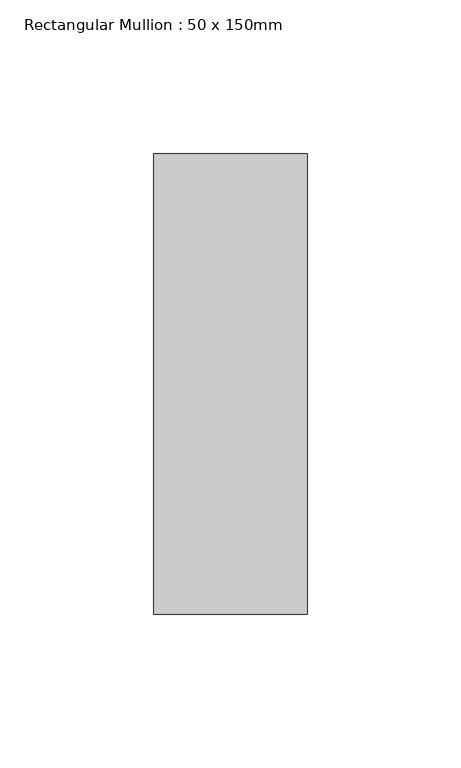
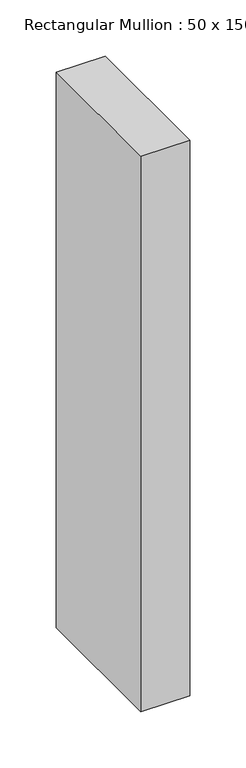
"""IFC4 building model written with IfcOpenShell, lengths in millimetres: member geometry, Rectangular Mullion : 50 x 150mm."""

from ifc_helpers import new_model, si_unit, frame, origin, place, context, project, spatial, polyline, outline, extrude, source, transform, mapped, element, save


def rectangular_mullion_50_x_150mm_fae7d408(model_context):
    return source(origin(), model_context, "Body", "SweptSolid", [
        extrude(outline(polyline([(25.0, 75.0), (25.0, -75.0), (-25.0, -75.0), (-25.0, 75.0), (25.0, 75.0)])), frame((0.0, 0.0, -601.5), z_axis=(0.0, 0.0, 1.0), x_axis=(1.0, 0.0, 0.0)), (0.0, 0.0, 1.0), 601.5),
    ])


if __name__ == "__main__":
    model = new_model("IFC4")
    model_context = context("Model", 3, world=origin())
    ifc_project = project(units=[si_unit("LENGTHUNIT", "METRE", prefix="MILLI")], contexts=[model_context])
    site = spatial("IfcSite", under=ifc_project)
    building = spatial("IfcBuilding", under=site)
    placement = place(None, origin())
    rectangular_mullion_50_x_150mm_shape = rectangular_mullion_50_x_150mm_fae7d408(model_context)
    element("IfcMember", 1, ObjectType="Rectangular Mullion : 50 x 150mm", at=placement, inside=building, context=model_context, shape_type="MappedRepresentation", body=[
        mapped(rectangular_mullion_50_x_150mm_shape, transform((0.0, 0.0, 0.0), x_axis=(1.0, 0.0, 0.0), y_axis=(0.0, 1.0, 0.0), z_axis=(0.0, 0.0, 1.0))),
    ])
    save(model, "model.ifc")
